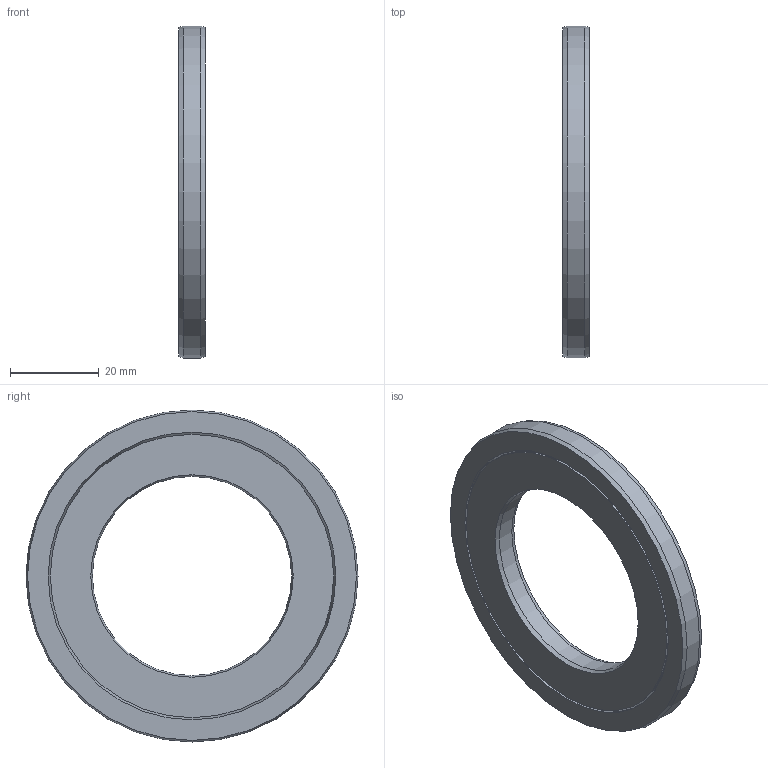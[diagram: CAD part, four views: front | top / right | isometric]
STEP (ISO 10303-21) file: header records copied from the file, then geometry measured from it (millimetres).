
FILE_DESCRIPTION(/* description */ (''),/* implementation_level */ '2;1');
FILE_NAME(/* name */ '307101 CF 6009 S10.stp',/* time_stamp */ '2016-12-16T11:18:59+01:00',/* author */ (''),/* organization */ (''),/* preprocessor_version */ 'ST-DEVELOPER v15',/* originating_system */ 'SIEMENS PLM Software NX 8.5',/* authorisation */ '');
FILE_SCHEMA (('CONFIG_CONTROL_DESIGN'));
Length unit declared in the file: millimetre
Products named in the file (1): ATE0000139_01
Bounding box: 6 x 75 x 75 mm (x, y, z)
Volume: 15465.7 mm3; surface area: 12949.3 mm2
Topology: 2 solids, 2 shells, 26 faces, 46 edges, 28 vertices
Faces by surface type: cone 10, plane 8, cylinder 8
Full cylindrical faces by diameter (mm): 45 x1, 52.5 x1, 53.5 x1, 55 x1, 56 x1, 64 x1, 65 x1, 75 x1
Entity records: 614 total; most frequent: DIRECTION 106, CARTESIAN_POINT 79, AXIS2_PLACEMENT_3D 53, FACE_BOUND 52, EDGE_LOOP 52, ORIENTED_EDGE 52, ADVANCED_FACE 26, VERTEX_POINT 26
